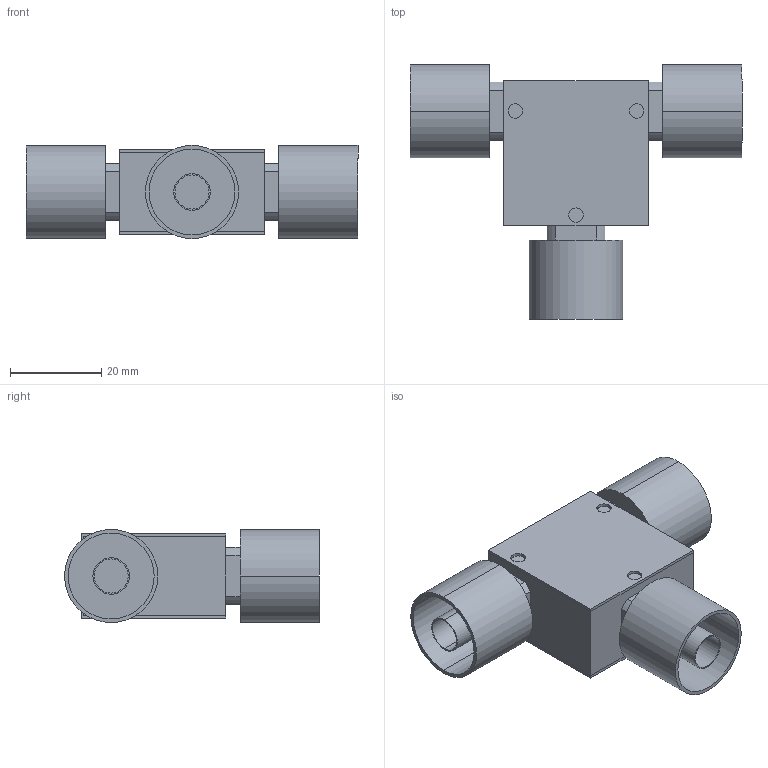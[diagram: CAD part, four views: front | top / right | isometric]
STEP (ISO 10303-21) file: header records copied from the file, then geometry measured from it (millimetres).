
FILE_DESCRIPTION (( 'STEP AP214' ), '1' );
FILE_NAME ('Package 8 Circ MMM Type-N.step', '2021-12-01T21:02:08', ( '' ), ( '' ), 'SwSTEP 2.0', 'SolidWorks 2016', '' );
FILE_SCHEMA (( 'AUTOMOTIVE_DESIGN' ));
Length unit declared in the file: inch
Products named in the file (4): Delta Type N Male, 0.5in flange; Package Size 8; Package 8 Circ MMM Type-N; Package 8
Assembly tree (5 placements, depth 2):
  Package 8 Circ MMM Type-N
    Package Size 8
    Package 8
    Delta Type N Male, 0.5in flange  x3
Bounding box: 72.9 x 55.94 x 20.45 mm (x, y, z)
Volume: 24613 mm3; surface area: 20274.9 mm2
Topology: 5 solids, 5 shells, 130 faces, 288 edges, 192 vertices
Faces by surface type: cylinder 72, plane 58
Entity records: 2006 total; most frequent: DIRECTION 348, CARTESIAN_POINT 310, ORIENTED_EDGE 288, EDGE_CURVE 144, AXIS2_PLACEMENT_3D 134, VERTEX_POINT 96, EDGE_LOOP 82, VECTOR 80
